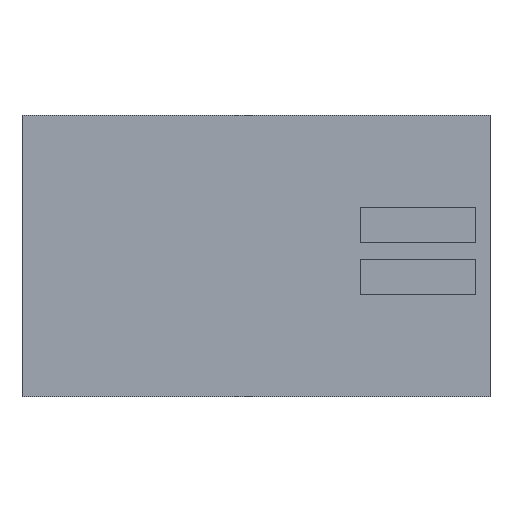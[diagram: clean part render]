
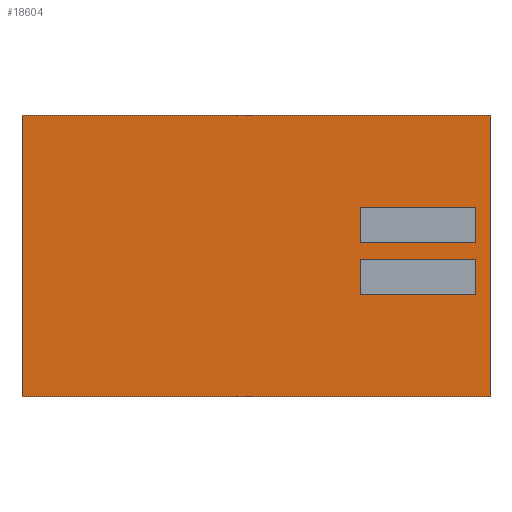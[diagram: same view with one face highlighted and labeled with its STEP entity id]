
A CAD part, front view. The second image highlights one B-rep face of the part: STEP entity #18604.
In plain terms, the highlighted planar face has unit normal (0, -1, 0).
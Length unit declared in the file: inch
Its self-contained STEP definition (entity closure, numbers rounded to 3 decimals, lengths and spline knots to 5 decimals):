
#675 = DIRECTION ( 'NONE',  ( 0., 0., 1. ) ) ;
#2059 = ORIENTED_EDGE ( 'NONE', *, *, #9232, .F. ) ;
#2967 = VECTOR ( 'NONE', #30616, 39.37008 ) ;
#3077 = PLANE ( 'NONE',  #7300 ) ;
#3689 = VERTEX_POINT ( 'NONE', #21336 ) ;
#3979 = ORIENTED_EDGE ( 'NONE', *, *, #10235, .F. ) ;
#4402 = LINE ( 'NONE', #9804, #16980 ) ;
#4466 = EDGE_CURVE ( 'NONE', #10636, #24818, #16336, .T. ) ;
#7300 = AXIS2_PLACEMENT_3D ( 'NONE', #30497, #15685, #675 ) ;
#8968 = CARTESIAN_POINT ( 'NONE',  ( -0.25, -0.03125, -0.27 ) ) ;
#9232 = EDGE_CURVE ( 'NONE', #3689, #10636, #4402, .T. ) ;
#9804 = CARTESIAN_POINT ( 'NONE',  ( 0.649, -0.03125, -0.27 ) ) ;
#10235 = EDGE_CURVE ( 'NONE', #20156, #3689, #11733, .T. ) ;
#10636 = VERTEX_POINT ( 'NONE', #15790 ) ;
#10932 = VECTOR ( 'NONE', #16823, 39.37008 ) ;
#11525 = DIRECTION ( 'NONE',  ( 0., 0., 1. ) ) ;
#11733 = LINE ( 'NONE', #14298, #10932 ) ;
#14298 = CARTESIAN_POINT ( 'NONE',  ( -0.25, -0.03125, 0.27 ) ) ;
#15685 = DIRECTION ( 'NONE',  ( 0., 1., 0. ) ) ;
#15790 = CARTESIAN_POINT ( 'NONE',  ( 0.649, -0.03125, -0.27 ) ) ;
#15803 = CARTESIAN_POINT ( 'NONE',  ( -0.25, -0.03125, -0.27 ) ) ;
#16336 = LINE ( 'NONE', #15803, #2967 ) ;
#16823 = DIRECTION ( 'NONE',  ( 1., 0., 0. ) ) ;
#16980 = VECTOR ( 'NONE', #32071, 39.37008 ) ;
#17765 = CARTESIAN_POINT ( 'NONE',  ( -0.25, -0.03125, 0.27 ) ) ;
#18543 = VECTOR ( 'NONE', #11525, 39.37008 ) ;
#18604 = ADVANCED_FACE ( 'NONE', ( #31718 ), #3077, .F. ) ;
#20156 = VERTEX_POINT ( 'NONE', #17765 ) ;
#20185 = CARTESIAN_POINT ( 'NONE',  ( -0.25, -0.03125, -0.27 ) ) ;
#20928 = EDGE_LOOP ( 'NONE', ( #28144, #30046, #2059, #3979 ) ) ;
#21336 = CARTESIAN_POINT ( 'NONE',  ( 0.649, -0.03125, 0.27 ) ) ;
#23046 = EDGE_CURVE ( 'NONE', #24818, #20156, #31693, .T. ) ;
#24818 = VERTEX_POINT ( 'NONE', #20185 ) ;
#28144 = ORIENTED_EDGE ( 'NONE', *, *, #23046, .F. ) ;
#30046 = ORIENTED_EDGE ( 'NONE', *, *, #4466, .F. ) ;
#30497 = CARTESIAN_POINT ( 'NONE',  ( 0., -0.03125, 0. ) ) ;
#30616 = DIRECTION ( 'NONE',  ( -1., 0., 0. ) ) ;
#31693 = LINE ( 'NONE', #8968, #18543 ) ;
#31718 = FACE_OUTER_BOUND ( 'NONE', #20928, .T. ) ;
#32071 = DIRECTION ( 'NONE',  ( 0., 0., -1. ) ) ;
